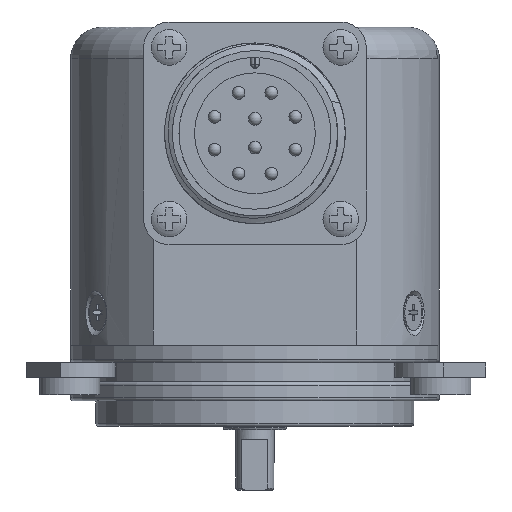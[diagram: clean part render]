
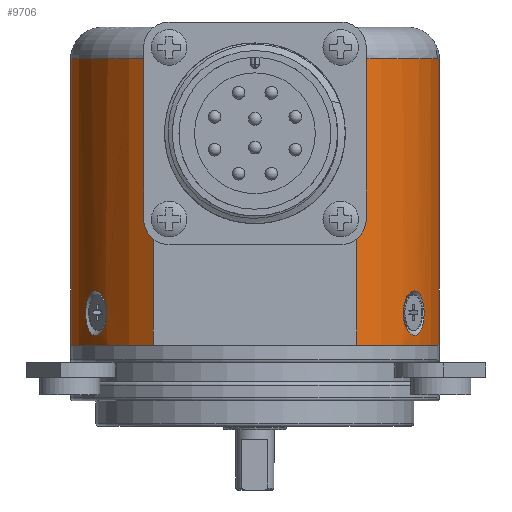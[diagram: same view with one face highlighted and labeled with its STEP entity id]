
A CAD part, left-side view. The second image highlights one B-rep face of the part: STEP entity #9706.
In plain terms, the highlighted cylindrical face has radius 29 mm (diameter 58 mm), a partial arc.
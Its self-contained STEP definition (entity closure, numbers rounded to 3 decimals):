
#126=CYLINDRICAL_SURFACE('',#11092,29.);
#341=B_SPLINE_CURVE_WITH_KNOTS('',3,(#21859,#21860,#21861,#21862,#21863,
#21864,#21865,#21866,#21867,#21868,#21869,#21870,#21871,#21872),
 .UNSPECIFIED.,.T.,.F.,(1,1,1,1,1,1,1,1,1,1,1,1,1,1,1,1,1,1),(-0.005,
-0.004,-0.003,0.,0.003,0.005,
0.007,0.008,0.009,0.011,
0.013,0.016,0.017,0.019,
0.021,0.024,0.027,0.028),
 .UNSPECIFIED.);
#343=B_SPLINE_CURVE_WITH_KNOTS('',3,(#22069,#22070,#22071,#22072,#22073,
#22074,#22075,#22076,#22077,#22078,#22079,#22080,#22081,#22082),
 .UNSPECIFIED.,.T.,.F.,(1,1,1,1,1,1,1,1,1,1,1,1,1,1,1,1,1,1),(-0.005,
-0.004,-0.003,0.,0.003,0.005,
0.007,0.008,0.009,0.011,
0.013,0.016,0.017,0.019,
0.021,0.024,0.027,0.028),
 .UNSPECIFIED.);
#344=B_SPLINE_CURVE_WITH_KNOTS('',3,(#22084,#22085,#22086,#22087,#22088,
#22089,#22090,#22091,#22092,#22093,#22094,#22095,#22096,#22097),
 .UNSPECIFIED.,.T.,.F.,(1,1,1,1,1,1,1,1,1,1,1,1,1,1,1,1,1,1),(-0.005,
-0.004,-0.003,0.,0.003,0.005,
0.007,0.008,0.009,0.011,
0.013,0.016,0.017,0.019,
0.021,0.024,0.027,0.028),
 .UNSPECIFIED.);
#632=LINE('',#22064,#1249);
#633=LINE('',#22066,#1250);
#1249=VECTOR('',#12933,1000.);
#1250=VECTOR('',#12934,1000.);
#2990=ORIENTED_EDGE('',*,*,#5201,.T.);
#2991=ORIENTED_EDGE('',*,*,#5097,.F.);
#2992=ORIENTED_EDGE('',*,*,#5202,.F.);
#2993=ORIENTED_EDGE('',*,*,#5203,.T.);
#2994=ORIENTED_EDGE('',*,*,#5112,.F.);
#2995=ORIENTED_EDGE('',*,*,#5204,.F.);
#2996=ORIENTED_EDGE('',*,*,#5205,.F.);
#5097=EDGE_CURVE('',#7784,#7786,#6263,.T.);
#5112=EDGE_CURVE('',#7799,#7799,#341,.T.);
#5201=EDGE_CURVE('',#7859,#7786,#632,.T.);
#5202=EDGE_CURVE('',#7860,#7784,#633,.T.);
#5203=EDGE_CURVE('',#7860,#7859,#6280,.T.);
#5204=EDGE_CURVE('',#7861,#7861,#343,.T.);
#5205=EDGE_CURVE('',#7862,#7862,#344,.T.);
#6263=CIRCLE('',#11038,29.);
#6280=CIRCLE('',#11093,29.);
#6902=EDGE_LOOP('',(#2990,#2991,#2992,#2993));
#6903=EDGE_LOOP('',(#2994));
#6904=EDGE_LOOP('',(#2995));
#6905=EDGE_LOOP('',(#2996));
#7784=VERTEX_POINT('',#21818);
#7786=VERTEX_POINT('',#21821);
#7799=VERTEX_POINT('',#21873);
#7859=VERTEX_POINT('',#22065);
#7860=VERTEX_POINT('',#22067);
#7861=VERTEX_POINT('',#22083);
#7862=VERTEX_POINT('',#22098);
#8813=FACE_BOUND('',#6902,.T.);
#8814=FACE_BOUND('',#6903,.T.);
#8815=FACE_BOUND('',#6904,.T.);
#8816=FACE_BOUND('',#6905,.T.);
#9706=ADVANCED_FACE('',(#8813,#8814,#8815,#8816),#126,.T.);
#11038=AXIS2_PLACEMENT_3D('',#21820,#12739,#12740);
#11092=AXIS2_PLACEMENT_3D('',#22063,#12931,#12932);
#11093=AXIS2_PLACEMENT_3D('',#22068,#12935,#12936);
#12739=DIRECTION('',(0.,0.,1.));
#12740=DIRECTION('',(0.,-1.,0.));
#12931=DIRECTION('',(0.,0.,1.));
#12932=DIRECTION('',(0.,-1.,0.));
#12933=DIRECTION('',(0.,0.,1.));
#12934=DIRECTION('',(0.,0.,1.));
#12935=DIRECTION('',(0.,0.,1.));
#12936=DIRECTION('',(0.,-1.,0.));
#21818=CARTESIAN_POINT('',(-24.187,-16.,44.9));
#21820=CARTESIAN_POINT('',(0.,0.,44.9));
#21821=CARTESIAN_POINT('',(-24.187,16.,44.9));
#21859=CARTESIAN_POINT('',(29.023,0.491,1.206));
#21860=CARTESIAN_POINT('',(28.897,2.678,2.252));
#21861=CARTESIAN_POINT('',(28.766,3.644,4.953));
#21862=CARTESIAN_POINT('',(28.879,2.78,7.165));
#21863=CARTESIAN_POINT('',(28.98,1.3,8.221));
#21864=CARTESIAN_POINT('',(29.011,-0.039,8.498));
#21865=CARTESIAN_POINT('',(28.976,-1.376,8.187));
#21866=CARTESIAN_POINT('',(28.873,-2.831,7.093));
#21867=CARTESIAN_POINT('',(28.767,-3.646,4.855));
#21868=CARTESIAN_POINT('',(28.879,-2.782,2.637));
#21869=CARTESIAN_POINT('',(28.98,-1.302,1.58));
#21870=CARTESIAN_POINT('',(29.023,0.491,1.206));
#21871=CARTESIAN_POINT('',(28.897,2.678,2.252));
#21872=CARTESIAN_POINT('',(28.766,3.644,4.953));
#21873=CARTESIAN_POINT('',(28.9,2.402,2.493));
#22063=CARTESIAN_POINT('',(0.,0.,-0.21));
#22064=CARTESIAN_POINT('',(-24.187,16.,-0.21));
#22065=CARTESIAN_POINT('',(-24.187,16.,-0.1));
#22066=CARTESIAN_POINT('',(-24.187,-16.,-0.21));
#22067=CARTESIAN_POINT('',(-24.187,-16.,-0.1));
#22068=CARTESIAN_POINT('',(0.,0.,-0.1));
#22069=CARTESIAN_POINT('',(-14.936,24.889,1.206));
#22070=CARTESIAN_POINT('',(-16.768,23.686,2.252));
#22071=CARTESIAN_POINT('',(-17.539,23.09,4.953));
#22072=CARTESIAN_POINT('',(-16.847,23.62,7.165));
#22073=CARTESIAN_POINT('',(-15.616,24.447,8.221));
#22074=CARTESIAN_POINT('',(-14.471,25.144,8.498));
#22075=CARTESIAN_POINT('',(-13.296,25.782,8.187));
#22076=CARTESIAN_POINT('',(-11.985,26.42,7.093));
#22077=CARTESIAN_POINT('',(-11.226,26.736,4.855));
#22078=CARTESIAN_POINT('',(-12.03,26.401,2.637));
#22079=CARTESIAN_POINT('',(-13.362,25.748,1.58));
#22080=CARTESIAN_POINT('',(-14.936,24.889,1.206));
#22081=CARTESIAN_POINT('',(-16.768,23.686,2.252));
#22082=CARTESIAN_POINT('',(-17.539,23.09,4.953));
#22083=CARTESIAN_POINT('',(-16.53,23.828,2.493));
#22084=CARTESIAN_POINT('',(-14.086,-25.38,1.206));
#22085=CARTESIAN_POINT('',(-12.129,-26.365,2.252));
#22086=CARTESIAN_POINT('',(-11.227,-26.734,4.953));
#22087=CARTESIAN_POINT('',(-12.032,-26.4,7.165));
#22088=CARTESIAN_POINT('',(-13.364,-25.748,8.221));
#22089=CARTESIAN_POINT('',(-14.539,-25.105,8.498));
#22090=CARTESIAN_POINT('',(-15.68,-24.406,8.187));
#22091=CARTESIAN_POINT('',(-16.888,-23.589,7.093));
#22092=CARTESIAN_POINT('',(-17.541,-23.09,4.855));
#22093=CARTESIAN_POINT('',(-16.848,-23.619,2.637));
#22094=CARTESIAN_POINT('',(-15.617,-24.446,1.58));
#22095=CARTESIAN_POINT('',(-14.086,-25.38,1.206));
#22096=CARTESIAN_POINT('',(-12.129,-26.365,2.252));
#22097=CARTESIAN_POINT('',(-11.227,-26.734,4.953));
#22098=CARTESIAN_POINT('',(-12.37,-26.229,2.493));
